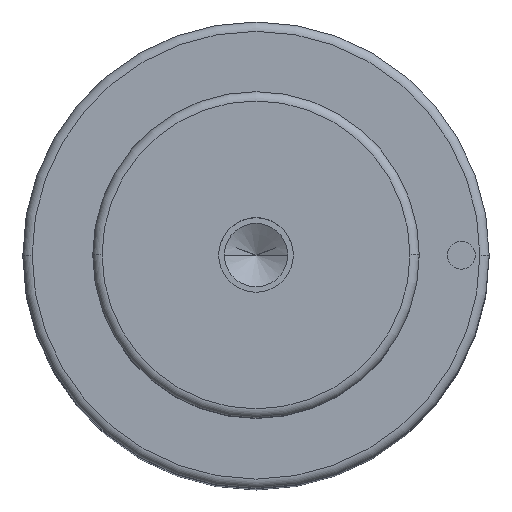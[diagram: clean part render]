
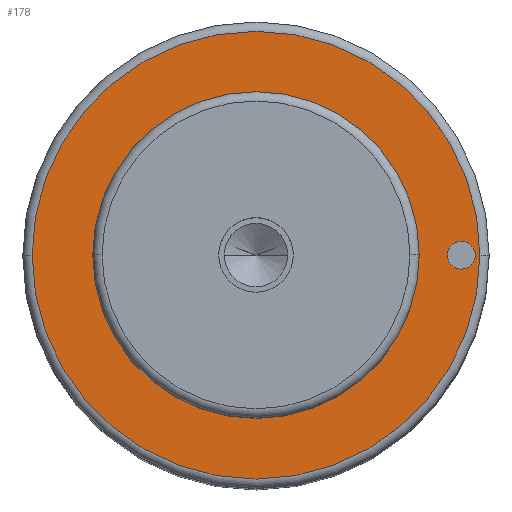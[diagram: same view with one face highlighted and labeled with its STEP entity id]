
A CAD part, top view. The second image highlights one B-rep face of the part: STEP entity #178.
In plain terms, the highlighted planar face has unit normal (0, 0, 1).
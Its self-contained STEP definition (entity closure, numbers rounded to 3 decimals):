
#105=PLANE('',#866);
#115=FACE_BOUND('',#283,.T.);
#116=FACE_BOUND('',#284,.T.);
#117=FACE_BOUND('',#285,.T.);
#178=ADVANCED_FACE('',(#115,#116,#117),#105,.T.);
#283=EDGE_LOOP('',(#473,#474));
#284=EDGE_LOOP('',(#475,#476));
#285=EDGE_LOOP('',(#477,#478));
#333=CIRCLE('',#834,17.5);
#334=CIRCLE('',#836,17.5);
#338=CIRCLE('',#841,24.);
#339=CIRCLE('',#843,24.);
#351=CIRCLE('',#864,1.5);
#352=CIRCLE('',#865,1.5);
#473=ORIENTED_EDGE('',*,*,#666,.F.);
#474=ORIENTED_EDGE('',*,*,#667,.F.);
#475=ORIENTED_EDGE('',*,*,#685,.F.);
#476=ORIENTED_EDGE('',*,*,#686,.F.);
#477=ORIENTED_EDGE('',*,*,#662,.T.);
#478=ORIENTED_EDGE('',*,*,#660,.T.);
#590=VERTEX_POINT('',#1233);
#591=VERTEX_POINT('',#1235);
#592=VERTEX_POINT('',#1241);
#595=VERTEX_POINT('',#1246);
#604=VERTEX_POINT('',#1285);
#605=VERTEX_POINT('',#1286);
#660=EDGE_CURVE('',#591,#590,#333,.T.);
#662=EDGE_CURVE('',#590,#591,#334,.T.);
#666=EDGE_CURVE('',#595,#592,#338,.T.);
#667=EDGE_CURVE('',#592,#595,#339,.T.);
#685=EDGE_CURVE('',#604,#605,#351,.T.);
#686=EDGE_CURVE('',#605,#604,#352,.T.);
#834=AXIS2_PLACEMENT_3D('',#1234,#985,#986);
#836=AXIS2_PLACEMENT_3D('',#1238,#990,#991);
#841=AXIS2_PLACEMENT_3D('',#1247,#1000,#1001);
#843=AXIS2_PLACEMENT_3D('',#1249,#1004,#1005);
#864=AXIS2_PLACEMENT_3D('',#1284,#1052,#1053);
#865=AXIS2_PLACEMENT_3D('',#1287,#1054,#1055);
#866=AXIS2_PLACEMENT_3D('',#1288,#1056,#1057);
#985=DIRECTION('',(0.,0.,-1.));
#986=DIRECTION('',(0.,1.,0.));
#990=DIRECTION('',(0.,0.,-1.));
#991=DIRECTION('',(0.,-1.,0.));
#1000=DIRECTION('',(0.,0.,-1.));
#1001=DIRECTION('',(0.,1.,0.));
#1004=DIRECTION('',(0.,0.,-1.));
#1005=DIRECTION('',(0.,-1.,0.));
#1052=DIRECTION('',(0.,0.,1.));
#1053=DIRECTION('',(0.,1.,0.));
#1054=DIRECTION('',(0.,0.,1.));
#1055=DIRECTION('',(0.,-1.,0.));
#1056=DIRECTION('',(0.,0.,1.));
#1057=DIRECTION('',(0.,-1.,0.));
#1233=CARTESIAN_POINT('',(-17.5,0.,98.));
#1234=CARTESIAN_POINT('',(0.,0.,98.));
#1235=CARTESIAN_POINT('',(17.5,0.,98.));
#1238=CARTESIAN_POINT('',(0.,0.,98.));
#1241=CARTESIAN_POINT('',(-24.,0.,98.));
#1246=CARTESIAN_POINT('',(24.,0.,98.));
#1247=CARTESIAN_POINT('',(0.,0.,98.));
#1249=CARTESIAN_POINT('',(0.,0.,98.));
#1284=CARTESIAN_POINT('',(22.,0.,98.));
#1285=CARTESIAN_POINT('',(20.5,0.,98.));
#1286=CARTESIAN_POINT('',(23.5,0.,98.));
#1287=CARTESIAN_POINT('',(22.,0.,98.));
#1288=CARTESIAN_POINT('',(0.,0.,98.));
